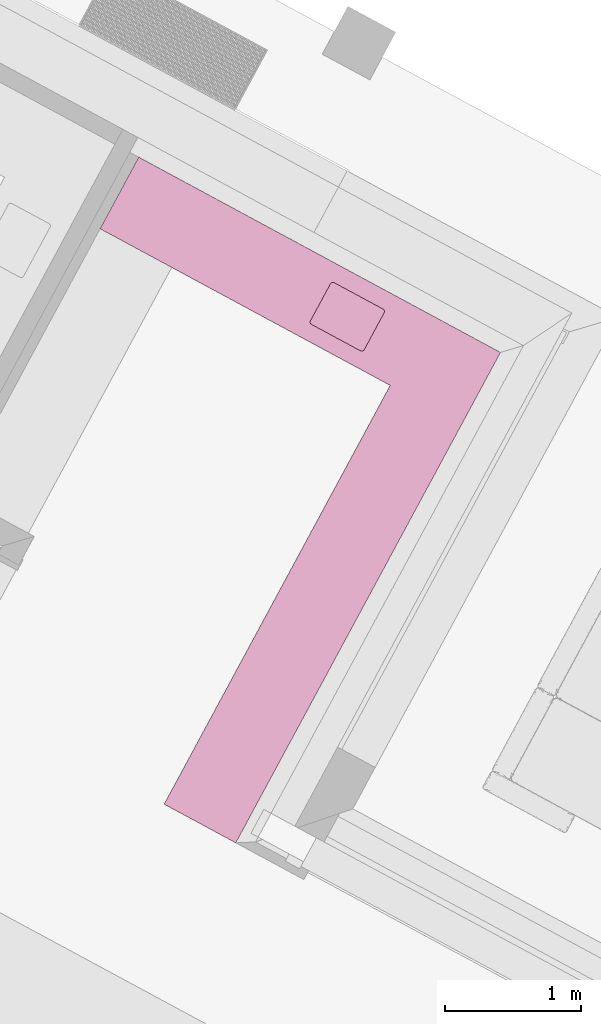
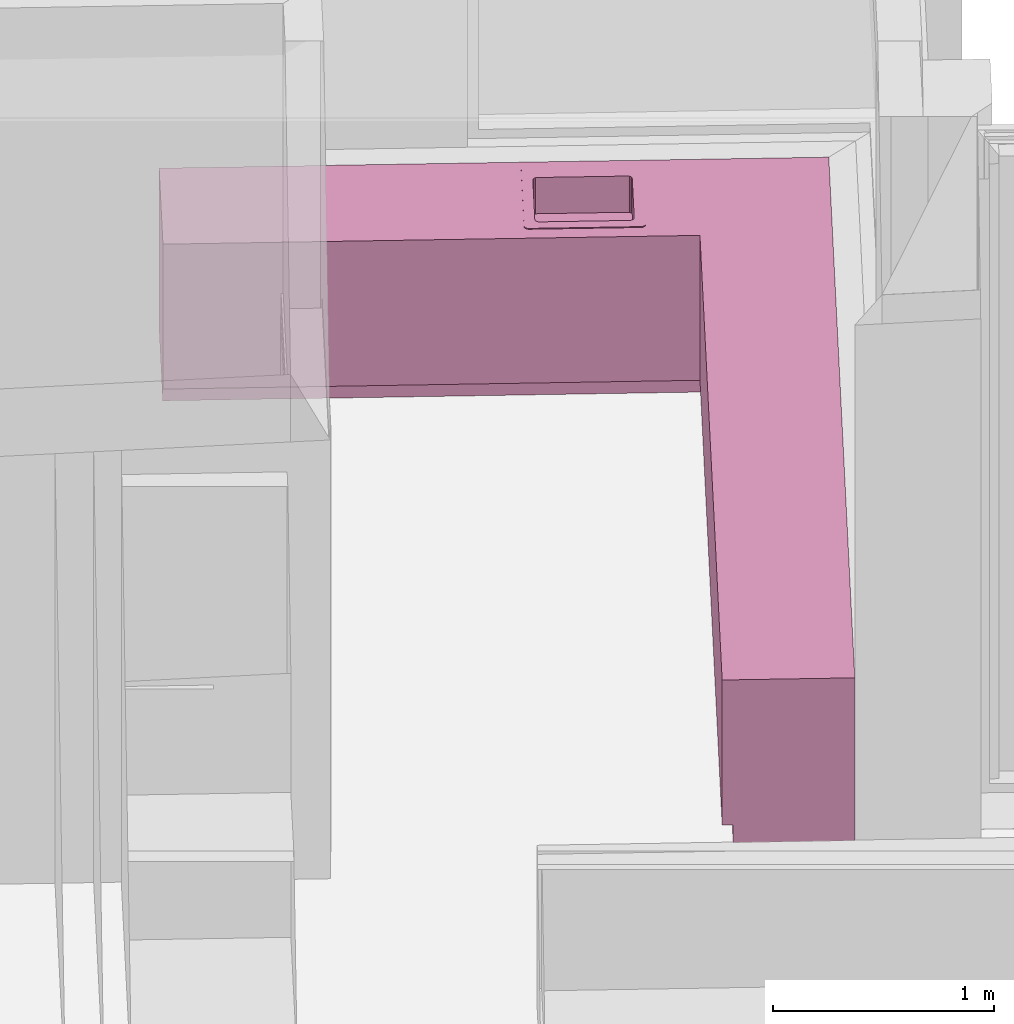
# One storey, part 34 of 36: 1 furnishing.
"""IFC2X3 building model written with IfcOpenShell, lengths in metres."""

from ifc_helpers import new_model, entity, si_unit, converted_unit, derived_unit, money_unit, direction, frame, origin_with_axes, place, context, subcontext, project, spatial, open_shell, faceted_brep, surface_model, type_object, element, save


model = new_model("IFC2X3")

# Units and contexts
model_context = context("Model", 3, precision=1e-05, world=origin_with_axes(), true_north=direction((0.0, 1.0)))
body_context = subcontext(model_context, "Body", "Model", "MODEL_VIEW")
ifc_project = project(units=[si_unit("LENGTHUNIT", "METRE"), si_unit("AREAUNIT", "SQUARE_METRE"), si_unit("VOLUMEUNIT", "CUBIC_METRE"), converted_unit("PLANEANGLEUNIT", "DEGREE", entity("IfcPlaneAngleMeasure", 0.0174532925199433), si_unit("PLANEANGLEUNIT", "RADIAN"), dimensions=[0, 0, 0, 0, 0, 0, 0]), money_unit("EUR"), converted_unit("TIMEUNIT", "Year", entity("IfcTimeMeasure", 31556926.0), si_unit("TIMEUNIT", "SECOND"), dimensions=[0, 0, 1, 0, 0, 0, 0]), si_unit("MASSUNIT", "GRAM", prefix="KILO"), si_unit("THERMODYNAMICTEMPERATUREUNIT", "DEGREE_CELSIUS"), si_unit("LUMINOUSINTENSITYUNIT", "LUMEN"), si_unit("ENERGYUNIT", "JOULE", prefix="MEGA"), derived_unit("THERMALCONDUCTANCEUNIT", [(si_unit("POWERUNIT", "WATT"), 1), (si_unit("LENGTHUNIT", "METRE"), -1), (si_unit("THERMODYNAMICTEMPERATUREUNIT", "KELVIN"), -1)]), derived_unit("SPECIFICHEATCAPACITYUNIT", [(si_unit("ENERGYUNIT", "JOULE"), 1), (si_unit("MASSUNIT", "GRAM", prefix="KILO"), -1), (si_unit("THERMODYNAMICTEMPERATUREUNIT", "KELVIN"), -1)]), derived_unit("MASSDENSITYUNIT", [(si_unit("MASSUNIT", "GRAM", prefix="KILO"), 1), (si_unit("VOLUMEUNIT", "CUBIC_METRE"), -1)])], contexts=[model_context])

# Site, building, storey
site_placement = place(None, frame((-3.949935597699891, 1.740105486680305, 0.0), z_axis=(0.0, 0.0, 1.0), x_axis=(0.8799804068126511, -0.475009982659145, 0.0)))
site = spatial("IfcSite", under=ifc_project, at=site_placement, Name="Gelände", CompositionType="ELEMENT")
building_placement = place(site_placement, origin_with_axes())
building = spatial("IfcBuilding", under=site, at=building_placement, Name="Gebäude", CompositionType="ELEMENT")
storey_placement = place(building_placement, origin_with_axes())
storey = spatial("IfcBuildingStorey", under=building, at=storey_placement, Name="Erdgeschoss", CompositionType="ELEMENT", Elevation=0.0)

# Furnishing
furniture_type = type_object("IfcFurnitureType", Name="Konzeptküche 26", AssemblyPlace="NOTDEFINED")
furnishing_placement = place(storey_placement, frame((13.84444936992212, 18.87533207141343, 0.0), z_axis=(0.0, 0.0, 1.0), x_axis=(-0.9999999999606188, -8.874816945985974e-06, 0.0)))
element("IfcFurnishingElement", 1, at=furnishing_placement, inside=storey, type_object=furniture_type, Name="Küche-001", ObjectType="FURNITURE", context=body_context, shape_type="SurfaceModel", body=[
    faceted_brep([(-0.1682858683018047, -7.403594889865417e-05, 0.0), (-0.1682858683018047, -7.403594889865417e-05, 0.1), (-3.198027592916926, 8.787106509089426e-07, 0.1), (-3.198027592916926, 8.787106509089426e-07, 0.0), (-0.1682722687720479, 0.5499259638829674, 0.0), (-0.1682722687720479, 0.5499259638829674, 0.1), (-2.648022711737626, 0.5499872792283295, 0.1), (-2.648022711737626, 0.5499872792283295, 0.0)], [[[0, 1, 2, 3]], [[4, 5, 1, 0]], [[1, 5, 6, 2]], [[3, 2, 6, 7]], [[0, 3, 7, 4]], [[7, 6, 5, 4]]]),
    faceted_brep([(-3.198027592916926, 8.787106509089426e-07, 0.0), (-3.198027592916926, 8.787106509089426e-07, 0.1), (-3.197991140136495, 4.107314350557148, 0.1), (-3.197991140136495, 4.107314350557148, 0.0), (-2.648022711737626, 0.5499872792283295, 0.0), (-2.648022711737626, 0.5499872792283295, 0.1), (-2.647991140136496, 4.107314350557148, 0.1), (-2.647991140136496, 4.107314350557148, 0.0)], [[[0, 1, 2, 3]], [[4, 5, 1, 0]], [[1, 5, 6, 2]], [[3, 2, 6, 7]], [[0, 3, 7, 4]], [[7, 6, 5, 4]]]),
    faceted_brep([(-0.1682710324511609, 0.5999259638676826, 0.86), (-0.1682858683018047, -7.403594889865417e-05, 0.86), (-3.198027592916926, 8.787106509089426e-07, 0.86), (-2.598022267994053, 0.5999860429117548, 0.86), (-1.82965234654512, 0.5049670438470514, 0.86), (-2.329652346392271, 0.5049794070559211, 0.86), (-2.329663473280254, 0.05497940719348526, 0.86), (-1.829663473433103, 0.05496704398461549, 0.86), (-0.1682710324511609, 0.5999259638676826, 0.9), (-0.1682858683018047, -7.403594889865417e-05, 0.9), (-3.198027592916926, 8.787106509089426e-07, 0.9), (-2.598022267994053, 0.5999860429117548, 0.9), (-2.329652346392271, 0.5049794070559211, 0.9), (-1.82965234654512, 0.5049670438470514, 0.9), (-2.329663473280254, 0.05497940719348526, 0.9), (-1.829663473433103, 0.05496704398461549, 0.9)], [[[0, 1, 2, 3], [4, 5, 6, 7]], [[1, 0, 8, 9]], [[2, 1, 9, 10]], [[3, 2, 10, 11]], [[0, 3, 11, 8]], [[12, 5, 4, 13]], [[14, 6, 5, 12]], [[15, 7, 6, 14]], [[13, 4, 7, 15]], [[10, 9, 8, 11], [13, 15, 14, 12]]]),
    faceted_brep([(-3.198027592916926, 8.787106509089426e-07, 0.86), (-3.198027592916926, 8.787106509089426e-07, 0.9), (-3.197991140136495, 4.107314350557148, 0.9), (-3.197991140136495, 4.107314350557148, 0.86), (-2.598022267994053, 0.5999860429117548, 0.86), (-2.598022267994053, 0.5999860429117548, 0.9), (-2.597991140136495, 4.107314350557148, 0.9), (-2.597991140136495, 4.107314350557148, 0.86)], [[[0, 1, 2, 3]], [[4, 5, 1, 0]], [[1, 5, 6, 2]], [[3, 2, 6, 7]], [[0, 3, 7, 4]], [[7, 6, 5, 4]]]),
    faceted_brep([(-0.1682710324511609, 0.5999259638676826, 0.09999999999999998), (-0.1682858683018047, -7.403594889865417e-05, 0.09999999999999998), (-3.198027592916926, 8.787106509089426e-07, 0.09999999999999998), (-2.598022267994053, 0.5999860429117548, 0.09999999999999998), (-1.82965234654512, 0.5049670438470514, 0.09999999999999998), (-2.329652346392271, 0.5049794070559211, 0.09999999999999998), (-2.329663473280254, 0.05497940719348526, 0.09999999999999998), (-1.829663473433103, 0.05496704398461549, 0.09999999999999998), (-0.1682710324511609, 0.5999259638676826, 0.86), (-0.1682858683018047, -7.403594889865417e-05, 0.86), (-3.198027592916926, 8.787106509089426e-07, 0.86), (-2.598022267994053, 0.5999860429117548, 0.86), (-2.329652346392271, 0.5049794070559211, 0.86), (-1.82965234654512, 0.5049670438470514, 0.86), (-2.329663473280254, 0.05497940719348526, 0.86), (-1.829663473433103, 0.05496704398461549, 0.86)], [[[0, 1, 2, 3], [4, 5, 6, 7]], [[1, 0, 8, 9]], [[2, 1, 9, 10]], [[3, 2, 10, 11]], [[0, 3, 11, 8]], [[12, 5, 4, 13]], [[14, 6, 5, 12]], [[15, 7, 6, 14]], [[13, 4, 7, 15]], [[10, 9, 8, 11], [13, 15, 14, 12]]]),
    faceted_brep([(-3.198027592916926, 8.787106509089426e-07, 0.1), (-3.198027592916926, 8.787106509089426e-07, 0.86), (-3.197991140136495, 4.107314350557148, 0.86), (-3.197991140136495, 4.107314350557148, 0.1), (-2.598022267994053, 0.5999860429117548, 0.1), (-2.598022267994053, 0.5999860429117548, 0.86), (-2.597991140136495, 4.107314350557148, 0.86), (-2.597991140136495, 4.107314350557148, 0.1)], [[[0, 1, 2, 3]], [[4, 5, 1, 0]], [[1, 5, 6, 2]], [[3, 2, 6, 7]], [[0, 3, 7, 4]], [[7, 6, 5, 4]]]),
    surface_model("IfcShellBasedSurfaceModel", [(-2.284652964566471, 0.4799782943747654, 0.705), (-2.284652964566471, 0.4799782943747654, 0.8999999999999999), (-1.874652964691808, 0.4799681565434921, 0.8999999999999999), (-1.874652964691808, 0.4799681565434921, 0.705), (-2.292306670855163, 0.4784560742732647, 0.705), (-2.292306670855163, 0.4784560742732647, 0.8999999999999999), (-1.866999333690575, 0.4784455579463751, 0.8999999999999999), (-1.866999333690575, 0.4784455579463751, 0.705), (-1.860510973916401, 0.4741099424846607, 0.705), (-1.856175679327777, 0.4676213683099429, 0.705), (-1.854653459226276, 0.4599676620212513, 0.705), (-1.854661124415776, 0.1499676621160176, 0.705), (-1.856183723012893, 0.1423140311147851, 0.705), (-1.860519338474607, 0.1358256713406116, 0.705), (-1.867007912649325, 0.131490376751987, 0.705), (-1.874661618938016, 0.1299681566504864, 0.705), (-2.28466161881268, 0.1299782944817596, 0.705), (-2.292315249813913, 0.1315008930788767, 0.705), (-2.298803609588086, 0.1358365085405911, 0.705), (-2.303138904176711, 0.1423250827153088, 0.705), (-2.304661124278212, 0.1499787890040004, 0.705), (-2.304653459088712, 0.4599787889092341, 0.705), (-2.303130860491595, 0.4676324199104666, 0.705), (-2.298795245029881, 0.4741207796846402, 0.705), (-2.298795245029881, 0.4741207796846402, 0.8999999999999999), (-1.860510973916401, 0.4741099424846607, 0.8999999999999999), (-1.856175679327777, 0.4676213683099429, 0.8999999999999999), (-1.854653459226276, 0.4599676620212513, 0.8999999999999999), (-1.854661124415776, 0.1499676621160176, 0.8999999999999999), (-1.856183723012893, 0.1423140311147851, 0.8999999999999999), (-1.860519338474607, 0.1358256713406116, 0.8999999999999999), (-1.867007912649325, 0.131490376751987, 0.8999999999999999), (-1.874661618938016, 0.1299681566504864, 0.8999999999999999), (-2.28466161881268, 0.1299782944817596, 0.8999999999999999), (-2.292315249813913, 0.1315008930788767, 0.8999999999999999), (-2.298803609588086, 0.1358365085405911, 0.8999999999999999), (-2.303138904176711, 0.1423250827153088, 0.8999999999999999), (-2.304661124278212, 0.1499787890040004, 0.8999999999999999), (-2.304653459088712, 0.4599787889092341, 0.8999999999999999), (-2.303130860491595, 0.4676324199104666, 0.8999999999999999)], [open_shell([[[0, 1, 2, 3]], [[4, 5, 1, 0]], [[3, 2, 6, 7]], [[0, 3, 7, 8, 9, 10, 11, 12, 13, 14, 15, 16, 17, 18, 19, 20, 21, 22, 23, 4]], [[23, 24, 5, 4]], [[7, 6, 25, 8]], [[8, 25, 26, 9]], [[9, 26, 27, 10]], [[10, 27, 28, 11]], [[11, 28, 29, 12]], [[12, 29, 30, 13]], [[13, 30, 31, 14]], [[14, 31, 32, 15]], [[15, 32, 33, 16]], [[16, 33, 34, 17]], [[17, 34, 35, 18]], [[18, 35, 36, 19]], [[19, 36, 37, 20]], [[20, 37, 38, 21]], [[21, 38, 39, 22]], [[22, 39, 24, 23]]])]),
    faceted_brep([(-2.334651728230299, 0.5299795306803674, 0.8999999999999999), (-2.334651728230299, 0.5299795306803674, 0.9049999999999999), (-1.824651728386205, 0.5299669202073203, 0.9049999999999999), (-1.824651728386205, 0.5299669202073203, 0.8999999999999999), (-2.342305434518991, 0.5284573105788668, 0.8999999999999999), (-2.342305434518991, 0.5284573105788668, 0.9049999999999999), (-2.348794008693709, 0.5241220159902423, 0.9049999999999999), (-2.353129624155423, 0.5176336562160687, 0.9049999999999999), (-2.35465222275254, 0.5099800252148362, 0.9049999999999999), (-2.3546635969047, 0.04998002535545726, 0.9049999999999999), (-2.3531413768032, 0.04232631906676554, 0.9049999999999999), (-2.348806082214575, 0.03583774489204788, 0.9049999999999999), (-2.342317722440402, 0.03150212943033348, 0.9049999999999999), (-2.334664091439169, 0.02997953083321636, 0.9049999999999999), (-1.824664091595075, 0.02996692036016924, 0.9049999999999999), (-1.817010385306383, 0.03148914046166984, 0.9049999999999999), (-1.810521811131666, 0.03582443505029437, 0.9049999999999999), (-1.806186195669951, 0.04231279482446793, 0.9049999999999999), (-1.804663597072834, 0.04996642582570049, 0.9049999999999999), (-1.804652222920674, 0.5099664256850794, 0.9049999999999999), (-1.806174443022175, 0.5176201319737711, 0.9049999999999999), (-1.810509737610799, 0.5241087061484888, 0.9049999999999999), (-1.816998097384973, 0.5284443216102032, 0.9049999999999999), (-2.284652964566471, 0.4799782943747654, 0.9049999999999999), (-1.874652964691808, 0.4799681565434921, 0.9049999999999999), (-1.866999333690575, 0.4784455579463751, 0.9049999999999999), (-1.860510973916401, 0.4741099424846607, 0.9049999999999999), (-1.856175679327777, 0.4676213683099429, 0.9049999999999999), (-1.854653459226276, 0.4599676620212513, 0.9049999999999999), (-1.854661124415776, 0.1499676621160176, 0.9049999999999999), (-1.856183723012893, 0.1423140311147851, 0.9049999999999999), (-1.860519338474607, 0.1358256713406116, 0.9049999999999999), (-1.867007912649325, 0.131490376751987, 0.9049999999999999), (-1.874661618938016, 0.1299681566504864, 0.9049999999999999), (-2.28466161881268, 0.1299782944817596, 0.9049999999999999), (-2.292315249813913, 0.1315008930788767, 0.9049999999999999), (-2.298803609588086, 0.1358365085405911, 0.9049999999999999), (-2.303138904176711, 0.1423250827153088, 0.9049999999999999), (-2.304661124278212, 0.1499787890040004, 0.9049999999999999), (-2.304653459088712, 0.4599787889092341, 0.9049999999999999), (-2.303130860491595, 0.4676324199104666, 0.9049999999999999), (-2.298795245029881, 0.4741207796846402, 0.9049999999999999), (-2.292306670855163, 0.4784560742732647, 0.9049999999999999), (-1.816998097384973, 0.5284443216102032, 0.8999999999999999), (-1.810509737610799, 0.5241087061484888, 0.8999999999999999), (-1.806174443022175, 0.5176201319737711, 0.8999999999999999), (-1.804652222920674, 0.5099664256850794, 0.8999999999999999), (-1.804663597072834, 0.04996642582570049, 0.8999999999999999), (-1.806186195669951, 0.04231279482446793, 0.8999999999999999), (-1.810521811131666, 0.03582443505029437, 0.8999999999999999), (-1.817010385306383, 0.03148914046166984, 0.8999999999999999), (-1.824664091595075, 0.02996692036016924, 0.8999999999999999), (-2.334664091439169, 0.02997953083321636, 0.8999999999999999), (-2.342317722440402, 0.03150212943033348, 0.8999999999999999), (-2.348806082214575, 0.03583774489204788, 0.8999999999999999), (-2.3531413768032, 0.04232631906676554, 0.8999999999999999), (-2.3546635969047, 0.04998002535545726, 0.8999999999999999), (-2.35465222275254, 0.5099800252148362, 0.8999999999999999), (-2.353129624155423, 0.5176336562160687, 0.8999999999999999), (-2.348794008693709, 0.5241220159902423, 0.8999999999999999), (-2.284652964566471, 0.4799782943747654, 0.8999999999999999), (-2.292306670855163, 0.4784560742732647, 0.8999999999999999), (-2.298795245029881, 0.4741207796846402, 0.8999999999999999), (-2.303130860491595, 0.4676324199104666, 0.8999999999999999), (-2.304653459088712, 0.4599787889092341, 0.8999999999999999), (-2.304661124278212, 0.1499787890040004, 0.8999999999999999), (-2.303138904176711, 0.1423250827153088, 0.8999999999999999), (-2.298803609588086, 0.1358365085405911, 0.8999999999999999), (-2.292315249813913, 0.1315008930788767, 0.8999999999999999), (-2.28466161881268, 0.1299782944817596, 0.8999999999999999), (-1.874661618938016, 0.1299681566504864, 0.8999999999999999), (-1.867007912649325, 0.131490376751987, 0.8999999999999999), (-1.860519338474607, 0.1358256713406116, 0.8999999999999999), (-1.856183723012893, 0.1423140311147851, 0.8999999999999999), (-1.854661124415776, 0.1499676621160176, 0.8999999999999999), (-1.854653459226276, 0.4599676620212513, 0.8999999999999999), (-1.856175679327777, 0.4676213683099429, 0.8999999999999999), (-1.860510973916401, 0.4741099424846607, 0.8999999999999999), (-1.866999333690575, 0.4784455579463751, 0.8999999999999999), (-1.874652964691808, 0.4799681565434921, 0.8999999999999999)], [[[0, 1, 2, 3]], [[4, 5, 1, 0]], [[1, 5, 6, 7, 8, 9, 10, 11, 12, 13, 14, 15, 16, 17, 18, 19, 20, 21, 22, 2], [23, 24, 25, 26, 27, 28, 29, 30, 31, 32, 33, 34, 35, 36, 37, 38, 39, 40, 41, 42]], [[3, 2, 22, 43]], [[0, 3, 43, 44, 45, 46, 47, 48, 49, 50, 51, 52, 53, 54, 55, 56, 57, 58, 59, 4], [60, 61, 62, 63, 64, 65, 66, 67, 68, 69, 70, 71, 72, 73, 74, 75, 76, 77, 78, 79]], [[59, 6, 5, 4]], [[58, 7, 6, 59]], [[57, 8, 7, 58]], [[56, 9, 8, 57]], [[55, 10, 9, 56]], [[54, 11, 10, 55]], [[53, 12, 11, 54]], [[52, 13, 12, 53]], [[51, 14, 13, 52]], [[50, 15, 14, 51]], [[49, 16, 15, 50]], [[48, 17, 16, 49]], [[47, 18, 17, 48]], [[46, 19, 18, 47]], [[45, 20, 19, 46]], [[44, 21, 20, 45]], [[43, 22, 21, 44]], [[79, 24, 23, 60]], [[78, 25, 24, 79]], [[77, 26, 25, 78]], [[76, 27, 26, 77]], [[75, 28, 27, 76]], [[74, 29, 28, 75]], [[73, 30, 29, 74]], [[72, 31, 30, 73]], [[71, 32, 31, 72]], [[70, 33, 32, 71]], [[69, 34, 33, 70]], [[68, 35, 34, 69]], [[67, 36, 35, 68]], [[66, 37, 36, 67]], [[65, 38, 37, 66]], [[64, 39, 38, 65]], [[63, 40, 39, 64]], [[62, 41, 40, 63]], [[61, 42, 41, 62]], [[60, 23, 42, 61]]]),
])

save(model, "model.ifc")
